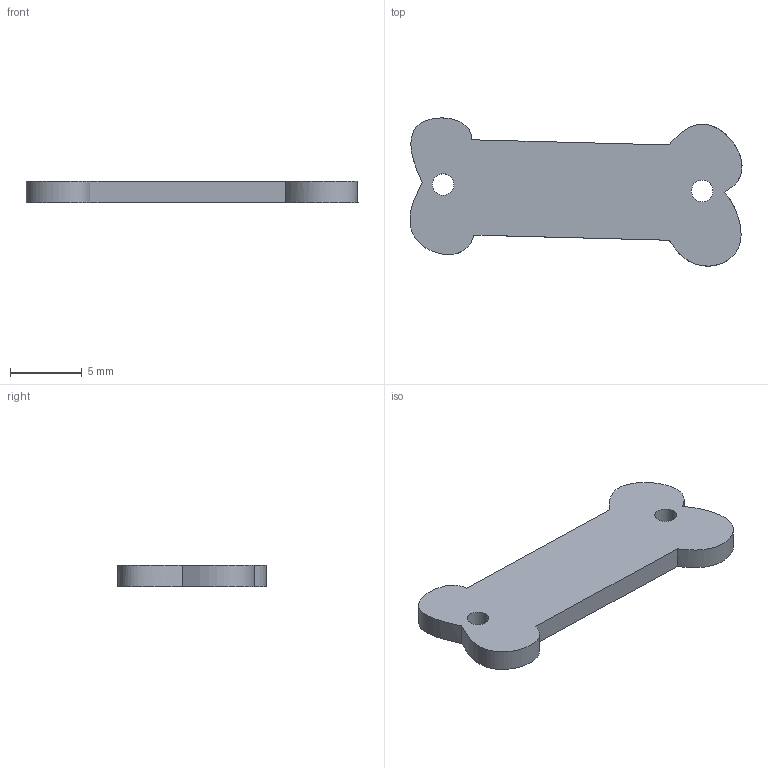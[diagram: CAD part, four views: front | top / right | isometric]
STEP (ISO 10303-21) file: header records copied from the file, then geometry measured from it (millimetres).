
FILE_DESCRIPTION(/* description */ ('','CAx-IF Rec.Pracs.---Representation and Presentation of Product Manufacturing Information (PMI)---4.0---2014-10-13'),/* implementation_level */ '2;1');
FILE_NAME(/* name */ 'Skelette_Oberarm.step',/* time_stamp */ '2025-01-30T08:36:57+01:00',/* author */ (''),/* organization */ (''),/* preprocessor_version */ 'ST-DEVELOPER v20',/* originating_system */ 'Autodesk Translation Framework v13.20.0.188',/* authorisation */ '');
FILE_SCHEMA (('AP242_MANAGED_MODEL_BASED_3D_ENGINEERING_MIM_LF { 1 0 10303 442 1 1 4 }'));
Length unit declared in the file: millimetre
Products named in the file (1): 01_Skelette_Oberarm
Bounding box: 23.08 x 10.3 x 1.5 mm (x, y, z)
Volume: 248.1 mm3; surface area: 442.5 mm2
Topology: 1 solids, 1 shells, 10 faces, 24 edges, 16 vertices
Faces by surface type: bspline 4, plane 4, cylinder 2
Full cylindrical faces by diameter (mm): 1.5 x2
Entity records: 601 total; most frequent: CARTESIAN_POINT 359, ORIENTED_EDGE 48, DIRECTION 34, EDGE_CURVE 24, VERTEX_POINT 16, EDGE_LOOP 14, LINE 12, VECTOR 12
